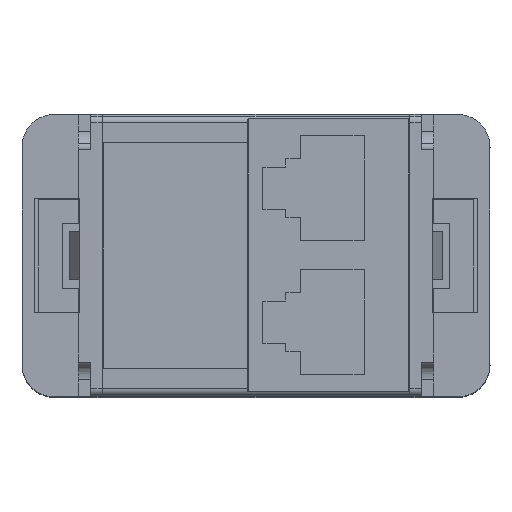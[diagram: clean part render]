
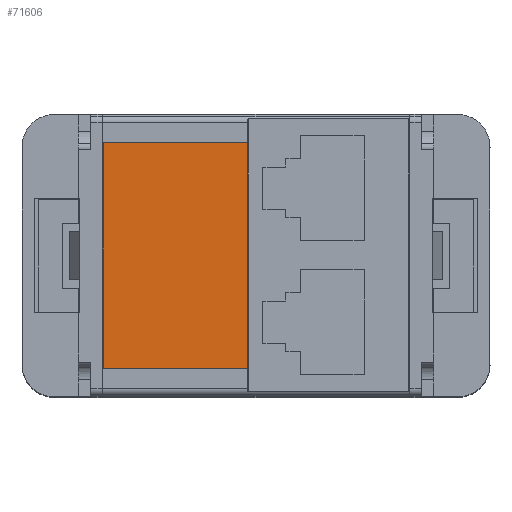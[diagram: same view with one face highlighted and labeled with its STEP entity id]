
A CAD part, top view. The second image highlights one B-rep face of the part: STEP entity #71606.
In plain terms, the highlighted planar face has unit normal (0, 0, 1).
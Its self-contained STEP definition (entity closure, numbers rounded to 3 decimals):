
#68281=CARTESIAN_POINT(' ',(-1.05,-14.,20.99));
#68282=VERTEX_POINT(' ',#68281);
#68296=CARTESIAN_POINT(' ',(-1.05,-14.,20.99));
#68301=DIRECTION(' ',(-1.,0.,0.));
#68306=VECTOR(' ',#68301,1.);
#68311=LINE('',#68296,#68306);
#68316=CARTESIAN_POINT(' ',(-18.95,-14.,20.99));
#68317=VERTEX_POINT(' ',#68316);
#68321=EDGE_CURVE(' ',#68282,#68317,#68311,.T.);
#71016=CARTESIAN_POINT(' ',(-18.95,14.,20.99));
#71017=VERTEX_POINT(' ',#71016);
#71031=CARTESIAN_POINT(' ',(-1.05,14.,20.99));
#71036=DIRECTION(' ',(-1.,0.,0.));
#71041=VECTOR(' ',#71036,1.);
#71046=LINE('',#71031,#71041);
#71051=CARTESIAN_POINT(' ',(-1.05,14.,20.99));
#71052=VERTEX_POINT(' ',#71051);
#71056=EDGE_CURVE(' ',#71052,#71017,#71046,.T.);
#71471=CARTESIAN_POINT(' ',(-1.05,14.,20.99));
#71476=DIRECTION(' ',(0.,-1.,0.));
#71481=VECTOR(' ',#71476,1.);
#71486=LINE('',#71471,#71481);
#71491=EDGE_CURVE(' ',#71052,#68282,#71486,.T.);
#71526=DIRECTION(' ',(0.,0.,1.));
#71531=CARTESIAN_POINT(' ',(-18.95,-14.,20.99));
#71536=DIRECTION(' ',(1.,0.,0.));
#71541=AXIS2_PLACEMENT_3D(' ',#71531,#71526,#71536);
#71546=PLANE('NONE',#71541);
#71551=CARTESIAN_POINT(' ',(-18.95,-14.,20.99));
#71556=DIRECTION(' ',(0.,1.,0.));
#71561=VECTOR(' ',#71556,1.);
#71566=LINE('',#71551,#71561);
#71571=EDGE_CURVE(' ',#68317,#71017,#71566,.T.);
#71576=ORIENTED_EDGE(' ',*,*,#71571,.F.);
#71581=ORIENTED_EDGE(' ',*,*,#68321,.F.);
#71586=ORIENTED_EDGE(' ',*,*,#71491,.F.);
#71591=ORIENTED_EDGE(' ',*,*,#71056,.T.);
#71596=EDGE_LOOP(' ',(#71576,#71581,#71586,#71591));
#71601=FACE_OUTER_BOUND(' ',#71596,.T.);
#71606=ADVANCED_FACE('NONE',(#71601),#71546,.T.);
